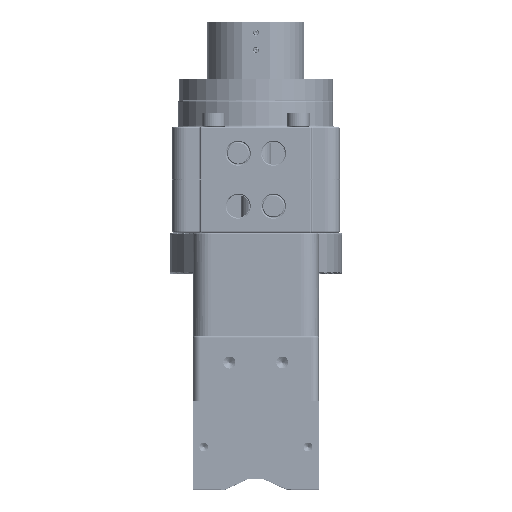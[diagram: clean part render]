
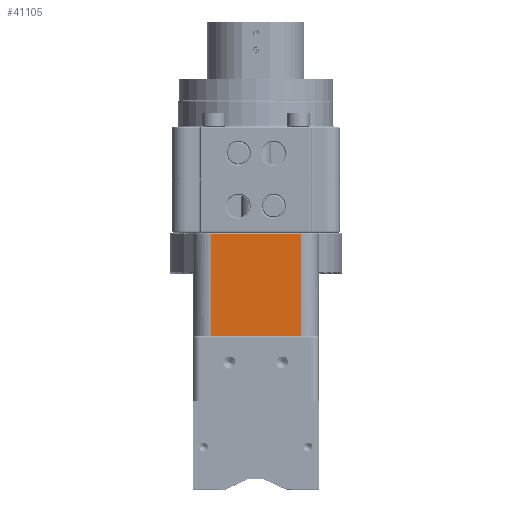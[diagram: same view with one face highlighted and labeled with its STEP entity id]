
A CAD part, top view. The second image highlights one B-rep face of the part: STEP entity #41105.
In plain terms, the highlighted planar face has unit normal (0, 0, 1) as drawn and (-1, 0, 0) by its records, which use the part's own axes.
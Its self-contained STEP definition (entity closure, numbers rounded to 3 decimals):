
#5462 = AXIS2_PLACEMENT_3D ( 'NONE', #36040, #99078, #76990 ) ;
#8191 = CARTESIAN_POINT ( 'NONE',  ( 0.6, -10.5, -25.56 ) ) ;
#8557 = FACE_OUTER_BOUND ( 'NONE', #16331, .T. ) ;
#16331 = EDGE_LOOP ( 'NONE', ( #50781, #87148, #102158, #120289 ) ) ;
#26702 = DIRECTION ( 'NONE',  ( 0., 0., -1. ) ) ;
#26928 = VECTOR ( 'NONE', #26702, 1000. ) ;
#34745 = LINE ( 'NONE', #73708, #118833 ) ;
#36040 = CARTESIAN_POINT ( 'NONE',  ( 0.6, -69.32, -169.586 ) ) ;
#38254 = CARTESIAN_POINT ( 'NONE',  ( 0.6, -69.32, 25.56 ) ) ;
#38535 = CARTESIAN_POINT ( 'NONE',  ( 0.6, -68.32, 25.56 ) ) ;
#40887 = EDGE_CURVE ( 'NONE', #91420, #110002, #34745, .T. ) ;
#41105 = ADVANCED_FACE ( 'NONE', ( #8557 ), #97738, .F. ) ;
#44784 = DIRECTION ( 'NONE',  ( 0., -1., 0. ) ) ;
#45188 = EDGE_CURVE ( 'NONE', #110002, #106767, #131069, .T. ) ;
#46276 = CARTESIAN_POINT ( 'NONE',  ( 0.6, -68.32, 25.56 ) ) ;
#50781 = ORIENTED_EDGE ( 'NONE', *, *, #122069, .T. ) ;
#55110 = VECTOR ( 'NONE', #112300, 1000. ) ;
#56885 = CARTESIAN_POINT ( 'NONE',  ( 0.6, -10.5, -31.56 ) ) ;
#59755 = DIRECTION ( 'NONE',  ( 0., 1., 0. ) ) ;
#60794 = VECTOR ( 'NONE', #59755, 1000. ) ;
#73131 = CARTESIAN_POINT ( 'NONE',  ( 0.6, -68.32, -25.56 ) ) ;
#73708 = CARTESIAN_POINT ( 'NONE',  ( 0.6, -69.32, -25.56 ) ) ;
#76990 = DIRECTION ( 'NONE',  ( 0., 0., -1. ) ) ;
#79216 = LINE ( 'NONE', #38254, #60794 ) ;
#81296 = CARTESIAN_POINT ( 'NONE',  ( 0.6, -10.5, 25.56 ) ) ;
#87148 = ORIENTED_EDGE ( 'NONE', *, *, #129138, .T. ) ;
#91420 = VERTEX_POINT ( 'NONE', #8191 ) ;
#94017 = VERTEX_POINT ( 'NONE', #81296 ) ;
#97738 = PLANE ( 'NONE',  #5462 ) ;
#99078 = DIRECTION ( 'NONE',  ( 1., 0., 0. ) ) ;
#99777 = LINE ( 'NONE', #56885, #26928 ) ;
#102158 = ORIENTED_EDGE ( 'NONE', *, *, #40887, .T. ) ;
#106767 = VERTEX_POINT ( 'NONE', #46276 ) ;
#110002 = VERTEX_POINT ( 'NONE', #73131 ) ;
#112300 = DIRECTION ( 'NONE',  ( 0., 0., 1. ) ) ;
#118833 = VECTOR ( 'NONE', #44784, 1000. ) ;
#120289 = ORIENTED_EDGE ( 'NONE', *, *, #45188, .T. ) ;
#122069 = EDGE_CURVE ( 'NONE', #106767, #94017, #79216, .T. ) ;
#129138 = EDGE_CURVE ( 'NONE', #94017, #91420, #99777, .T. ) ;
#131069 = LINE ( 'NONE', #38535, #55110 ) ;
